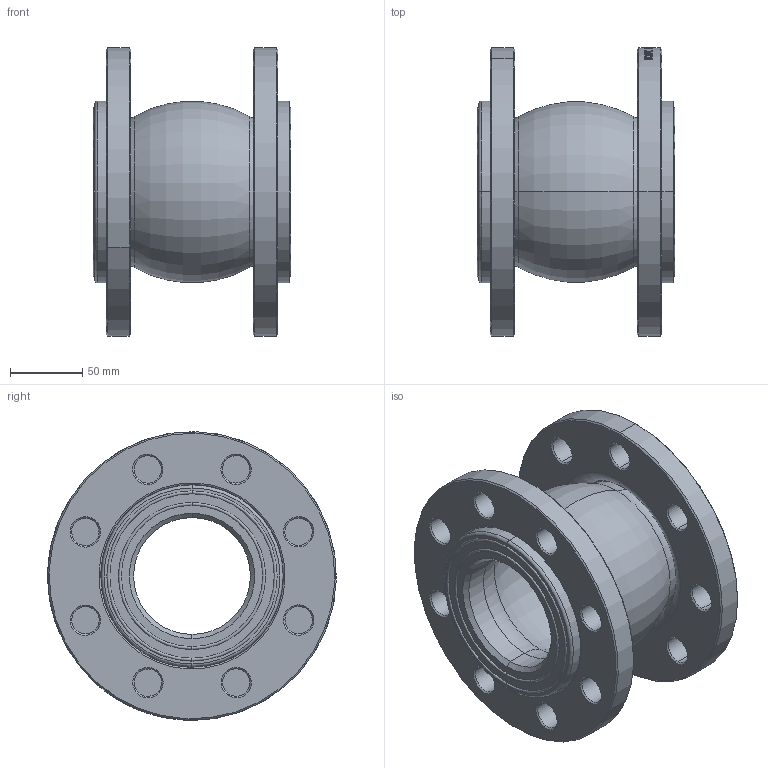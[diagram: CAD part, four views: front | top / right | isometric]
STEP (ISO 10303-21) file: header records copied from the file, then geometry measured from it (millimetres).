
FILE_DESCRIPTION (( 'STEP AP203' ), '1' );
FILE_NAME ('DN80 PN16.STEP', '2026-07-16T06:17:43', ( 'Windows 蚚誧' ), ( '' ), 'SwSTEP 2.0', 'SolidWorks 2018', '' );
FILE_SCHEMA (( 'CONFIG_CONTROL_DESIGN' ));
Length unit declared in the file: millimetre
Products named in the file (3): DN80 PN16; DN80
Assembly tree (3 placements, depth 2):
  DN80 PN16
    DN80
    DN80 PN16  x2
Bounding box: 137 x 200 x 200 mm (x, y, z)
Volume: 1173518.4 mm3; surface area: 256664.9 mm2
Topology: 3 solids, 3 shells, 622 faces, 1542 edges, 986 vertices
Faces by surface type: bspline 212, plane 168, cylinder 112, cone 76, torus 54
Entity records: 31587 total; most frequent: CARTESIAN_POINT 23851, ORIENTED_EDGE 1678, DIRECTION 1287, EDGE_CURVE 839, AXIS2_PLACEMENT_3D 539, VERTEX_POINT 532, EDGE_LOOP 399, FACE_OUTER_BOUND 345
